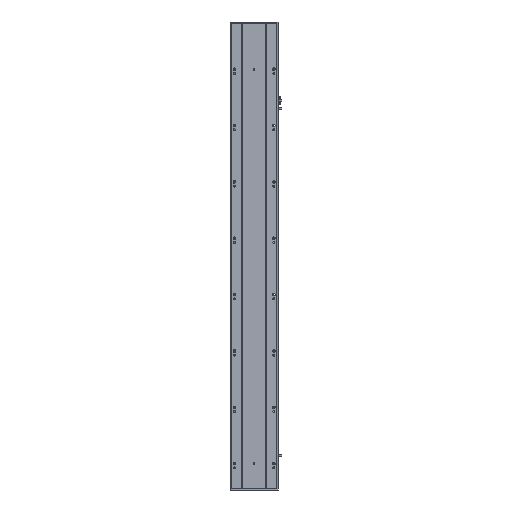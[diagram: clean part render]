
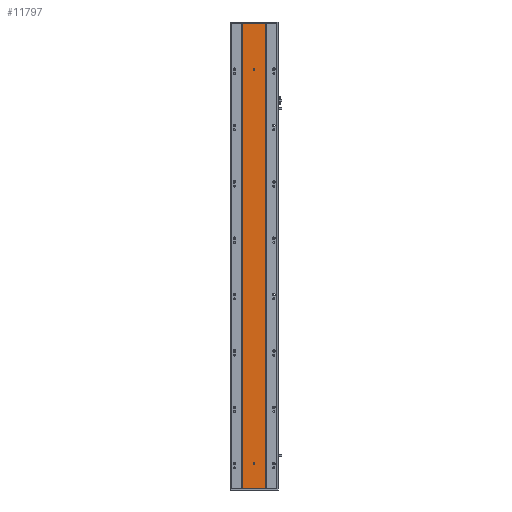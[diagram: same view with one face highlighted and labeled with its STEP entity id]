
A CAD part, front view. The second image highlights one B-rep face of the part: STEP entity #11797.
In plain terms, the highlighted planar face has unit normal (0, -1, 0).
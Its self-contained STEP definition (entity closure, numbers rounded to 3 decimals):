
#953 = DIRECTION ( 'NONE',  ( 0., 0., 1. ) ) ;
#1000 = EDGE_CURVE ( 'NONE', #13955, #13229, #23813, .T. ) ;
#1158 = CIRCLE ( 'NONE', #15047, 3. ) ;
#1180 = FACE_BOUND ( 'NONE', #11622, .T. ) ;
#1431 = CARTESIAN_POINT ( 'NONE',  ( 42.916, 2.57, 1651. ) ) ;
#1446 = DIRECTION ( 'NONE',  ( 0., 1., 0. ) ) ;
#1727 = CARTESIAN_POINT ( 'NONE',  ( 85., 2.57, 1485.5 ) ) ;
#2257 = LINE ( 'NONE', #11299, #2903 ) ;
#2435 = CARTESIAN_POINT ( 'NONE',  ( 85., 2.57, 88.5 ) ) ;
#2454 = EDGE_CURVE ( 'NONE', #15294, #15767, #15668, .T. ) ;
#2633 = CARTESIAN_POINT ( 'NONE',  ( 42.916, 2.57, 1651. ) ) ;
#2903 = VECTOR ( 'NONE', #13178, 1000. ) ;
#3065 = CARTESIAN_POINT ( 'NONE',  ( 42.916, 2.57, 0. ) ) ;
#3115 = EDGE_LOOP ( 'NONE', ( #13288, #23823, #22648, #25296 ) ) ;
#4332 = DIRECTION ( 'NONE',  ( 0., 0., 1. ) ) ;
#4507 = DIRECTION ( 'NONE',  ( 0., 0., 1. ) ) ;
#5025 = CARTESIAN_POINT ( 'NONE',  ( 42.916, 2.57, 0. ) ) ;
#5525 = ORIENTED_EDGE ( 'NONE', *, *, #2454, .T. ) ;
#6372 = CARTESIAN_POINT ( 'NONE',  ( 126.916, 2.57, 0. ) ) ;
#6671 = FACE_BOUND ( 'NONE', #17373, .T. ) ;
#7082 = DIRECTION ( 'NONE',  ( 0., 1., 0. ) ) ;
#7111 = DIRECTION ( 'NONE',  ( -1., 0., 0. ) ) ;
#7462 = VECTOR ( 'NONE', #4332, 1000. ) ;
#7815 = EDGE_CURVE ( 'NONE', #24863, #13229, #11019, .T. ) ;
#7918 = CARTESIAN_POINT ( 'NONE',  ( 126.916, 2.57, 0. ) ) ;
#8217 = EDGE_CURVE ( 'NONE', #20471, #24863, #24470, .T. ) ;
#8251 = EDGE_CURVE ( 'NONE', #11239, #19619, #22519, .T. ) ;
#8685 = AXIS2_PLACEMENT_3D ( 'NONE', #2435, #16739, #4507 ) ;
#9165 = EDGE_CURVE ( 'NONE', #15767, #15294, #16719, .T. ) ;
#10638 = CARTESIAN_POINT ( 'NONE',  ( 42.916, 2.57, 0. ) ) ;
#11019 = LINE ( 'NONE', #2633, #21244 ) ;
#11124 = CARTESIAN_POINT ( 'NONE',  ( 85., 2.57, 1488.5 ) ) ;
#11239 = VERTEX_POINT ( 'NONE', #21352 ) ;
#11299 = CARTESIAN_POINT ( 'NONE',  ( 42.916, 2.57, 0. ) ) ;
#11622 = EDGE_LOOP ( 'NONE', ( #25089, #15160 ) ) ;
#11797 = ADVANCED_FACE ( 'NONE', ( #1180, #6671, #12098 ), #19344, .F. ) ;
#12098 = FACE_OUTER_BOUND ( 'NONE', #3115, .T. ) ;
#12899 = VECTOR ( 'NONE', #18764, 1000. ) ;
#13172 = DIRECTION ( 'NONE',  ( 0., 0., 1. ) ) ;
#13178 = DIRECTION ( 'NONE',  ( -1., 0., 0. ) ) ;
#13229 = VERTEX_POINT ( 'NONE', #1431 ) ;
#13269 = DIRECTION ( 'NONE',  ( 0., 1., 0. ) ) ;
#13288 = ORIENTED_EDGE ( 'NONE', *, *, #7815, .T. ) ;
#13735 = CARTESIAN_POINT ( 'NONE',  ( 85., 2.57, 1488.5 ) ) ;
#13955 = VERTEX_POINT ( 'NONE', #3065 ) ;
#15047 = AXIS2_PLACEMENT_3D ( 'NONE', #25571, #13269, #953 ) ;
#15160 = ORIENTED_EDGE ( 'NONE', *, *, #19085, .T. ) ;
#15286 = CARTESIAN_POINT ( 'NONE',  ( 85., 2.57, 91.5 ) ) ;
#15294 = VERTEX_POINT ( 'NONE', #1727 ) ;
#15668 = CIRCLE ( 'NONE', #16847, 3. ) ;
#15767 = VERTEX_POINT ( 'NONE', #19818 ) ;
#15777 = DIRECTION ( 'NONE',  ( 0., 0., 1. ) ) ;
#16085 = ORIENTED_EDGE ( 'NONE', *, *, #9165, .T. ) ;
#16719 = CIRCLE ( 'NONE', #26380, 3. ) ;
#16739 = DIRECTION ( 'NONE',  ( 0., 1., 0. ) ) ;
#16847 = AXIS2_PLACEMENT_3D ( 'NONE', #11124, #25479, #13172 ) ;
#17373 = EDGE_LOOP ( 'NONE', ( #5525, #16085 ) ) ;
#18035 = EDGE_CURVE ( 'NONE', #20471, #13955, #2257, .T. ) ;
#18764 = DIRECTION ( 'NONE',  ( 0., 0., 1. ) ) ;
#19085 = EDGE_CURVE ( 'NONE', #19619, #11239, #1158, .T. ) ;
#19344 = PLANE ( 'NONE',  #20784 ) ;
#19619 = VERTEX_POINT ( 'NONE', #15286 ) ;
#19818 = CARTESIAN_POINT ( 'NONE',  ( 85., 2.57, 1491.5 ) ) ;
#20471 = VERTEX_POINT ( 'NONE', #7918 ) ;
#20784 = AXIS2_PLACEMENT_3D ( 'NONE', #5025, #7082, #21404 ) ;
#21244 = VECTOR ( 'NONE', #7111, 1000. ) ;
#21352 = CARTESIAN_POINT ( 'NONE',  ( 85., 2.57, 85.5 ) ) ;
#21404 = DIRECTION ( 'NONE',  ( 0., 0., 1. ) ) ;
#22519 = CIRCLE ( 'NONE', #8685, 3. ) ;
#22532 = CARTESIAN_POINT ( 'NONE',  ( 126.916, 2.57, 1651. ) ) ;
#22648 = ORIENTED_EDGE ( 'NONE', *, *, #18035, .F. ) ;
#23813 = LINE ( 'NONE', #10638, #12899 ) ;
#23823 = ORIENTED_EDGE ( 'NONE', *, *, #1000, .F. ) ;
#24470 = LINE ( 'NONE', #6372, #7462 ) ;
#24863 = VERTEX_POINT ( 'NONE', #22532 ) ;
#25089 = ORIENTED_EDGE ( 'NONE', *, *, #8251, .T. ) ;
#25296 = ORIENTED_EDGE ( 'NONE', *, *, #8217, .T. ) ;
#25479 = DIRECTION ( 'NONE',  ( 0., 1., 0. ) ) ;
#25571 = CARTESIAN_POINT ( 'NONE',  ( 85., 2.57, 88.5 ) ) ;
#26380 = AXIS2_PLACEMENT_3D ( 'NONE', #13735, #1446, #15777 ) ;
